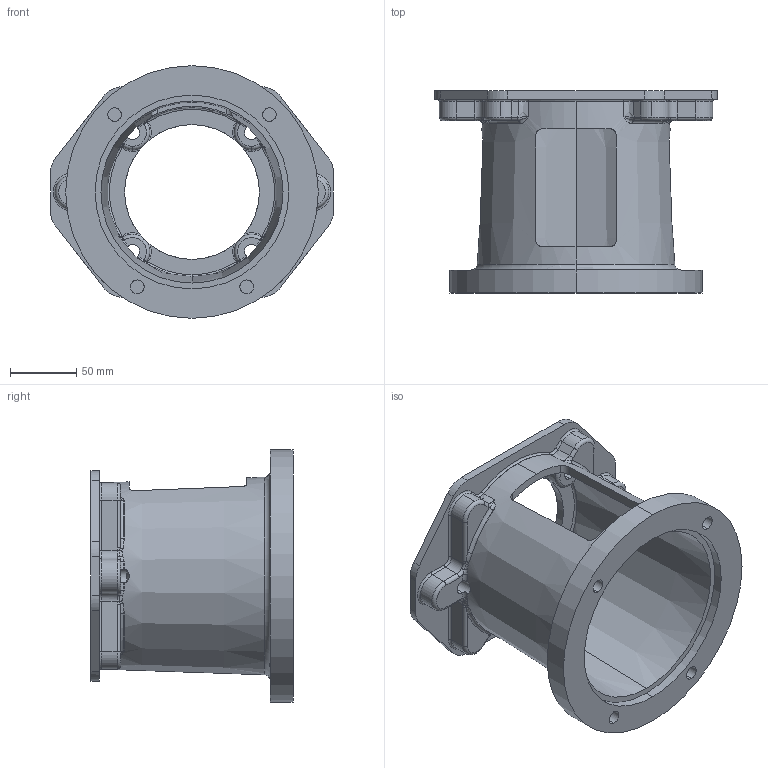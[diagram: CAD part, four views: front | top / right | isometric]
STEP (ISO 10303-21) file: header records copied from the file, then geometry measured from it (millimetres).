
FILE_DESCRIPTION (( 'STEP AP214' ), '1' );
FILE_NAME ('E575602B.STEP', '2019-04-05T12:22:07', ( 'Windows User' ), ( '' ), 'SwSTEP 2.0', 'SolidWorks 2018', '' );
FILE_SCHEMA (( 'AUTOMOTIVE_DESIGN' ));
Length unit declared in the file: inch
Products named in the file (1): E575602B
Bounding box: 213.3 x 152.4 x 190.5 mm (x, y, z)
Volume: 744614.8 mm3; surface area: 196149.9 mm2
Topology: 1 solids, 1 shells, 304 faces, 812 edges, 481 vertices
Faces by surface type: torus 87, cylinder 74, bspline 64, plane 43, cone 20, sphere 16
Entity records: 12524 total; most frequent: CARTESIAN_POINT 5226, ORIENTED_EDGE 1584, DIRECTION 1474, EDGE_CURVE 792, AXIS2_PLACEMENT_3D 665, VERTEX_POINT 481, CIRCLE 424, EDGE_LOOP 319
